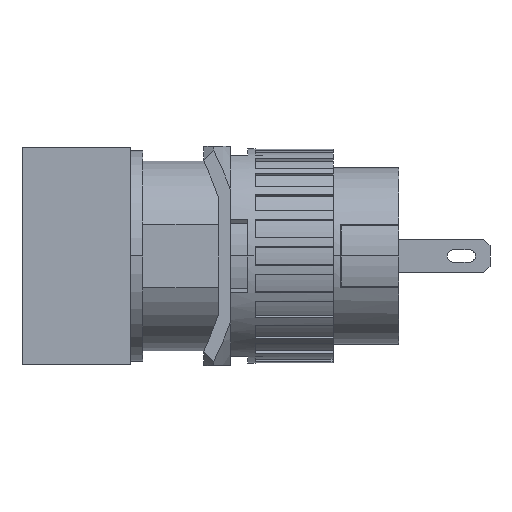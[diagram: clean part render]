
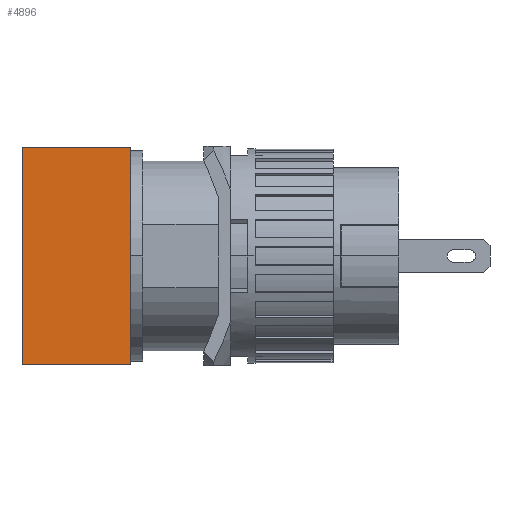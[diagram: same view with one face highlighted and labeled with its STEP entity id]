
A CAD part, left-side view. The second image highlights one B-rep face of the part: STEP entity #4896.
In plain terms, the highlighted planar face has unit normal (-1, 0, 0).
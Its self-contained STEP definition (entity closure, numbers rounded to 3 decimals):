
#909 = VECTOR ( 'NONE', #5871, 1000. ) ;
#911 = VECTOR ( 'NONE', #5868, 1000. ) ;
#912 = VECTOR ( 'NONE', #5865, 1000. ) ;
#921 = VECTOR ( 'NONE', #5850, 1000. ) ;
#1247 = VERTEX_POINT ( 'NONE', #2710 ) ;
#1248 = VERTEX_POINT ( 'NONE', #2711 ) ;
#1251 = VERTEX_POINT ( 'NONE', #2714 ) ;
#1252 = VERTEX_POINT ( 'NONE', #2715 ) ;
#2036 = EDGE_LOOP ( 'NONE', ( #3666, #3668, #3667, #3669 ) ) ;
#2710 = CARTESIAN_POINT ( 'NONE',  ( -8.925, 26.9, 8.925 ) ) ;
#2711 = CARTESIAN_POINT ( 'NONE',  ( -8.925, 18., 8.925 ) ) ;
#2714 = CARTESIAN_POINT ( 'NONE',  ( -8.925, 26.9, -8.925 ) ) ;
#2715 = CARTESIAN_POINT ( 'NONE',  ( -8.925, 18., -8.925 ) ) ;
#3666 = ORIENTED_EDGE ( 'NONE', *, *, #4630, .T. ) ;
#3667 = ORIENTED_EDGE ( 'NONE', *, *, #4631, .F. ) ;
#3668 = ORIENTED_EDGE ( 'NONE', *, *, #4629, .F. ) ;
#3669 = ORIENTED_EDGE ( 'NONE', *, *, #4624, .T. ) ;
#4624 = EDGE_CURVE ( 'NONE', #1251, #1252, #5848, .T. ) ;
#4629 = EDGE_CURVE ( 'NONE', #1247, #1248, #5863, .T. ) ;
#4630 = EDGE_CURVE ( 'NONE', #1252, #1248, #5866, .T. ) ;
#4631 = EDGE_CURVE ( 'NONE', #1251, #1247, #5869, .T. ) ;
#4896 = ADVANCED_FACE ( 'NONE', ( #5180 ), #6770, .F. ) ;
#5177 = AXIS2_PLACEMENT_3D ( 'NONE', #6771, #6772, #6773 ) ;
#5180 = FACE_OUTER_BOUND ( 'NONE', #2036, .T. ) ;
#5848 = LINE ( 'NONE', #5849, #921 ) ;
#5849 = CARTESIAN_POINT ( 'NONE',  ( -8.925, 26.9, -8.925 ) ) ;
#5850 = DIRECTION ( 'NONE',  ( 0., -1., 0. ) ) ;
#5863 = LINE ( 'NONE', #5864, #912 ) ;
#5864 = CARTESIAN_POINT ( 'NONE',  ( -8.925, 26.9, 8.925 ) ) ;
#5865 = DIRECTION ( 'NONE',  ( 0., -1., 0. ) ) ;
#5866 = LINE ( 'NONE', #5867, #911 ) ;
#5867 = CARTESIAN_POINT ( 'NONE',  ( -8.925, 18., 8.925 ) ) ;
#5868 = DIRECTION ( 'NONE',  ( 0., 0., 1. ) ) ;
#5869 = LINE ( 'NONE', #5870, #909 ) ;
#5870 = CARTESIAN_POINT ( 'NONE',  ( -8.925, 26.9, 8.925 ) ) ;
#5871 = DIRECTION ( 'NONE',  ( 0., 0., 1. ) ) ;
#6770 = PLANE ( 'NONE',  #5177 ) ;
#6771 = CARTESIAN_POINT ( 'NONE',  ( -8.925, 26.9, 8.925 ) ) ;
#6772 = DIRECTION ( 'NONE',  ( 1., 0., 0. ) ) ;
#6773 = DIRECTION ( 'NONE',  ( 0., 1., 0. ) ) ;
